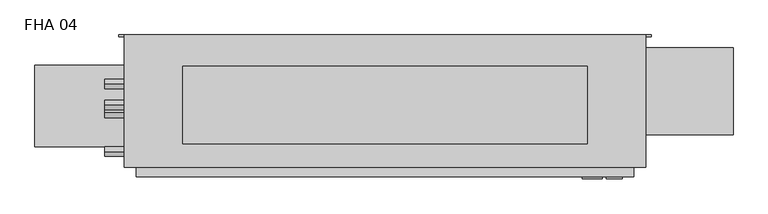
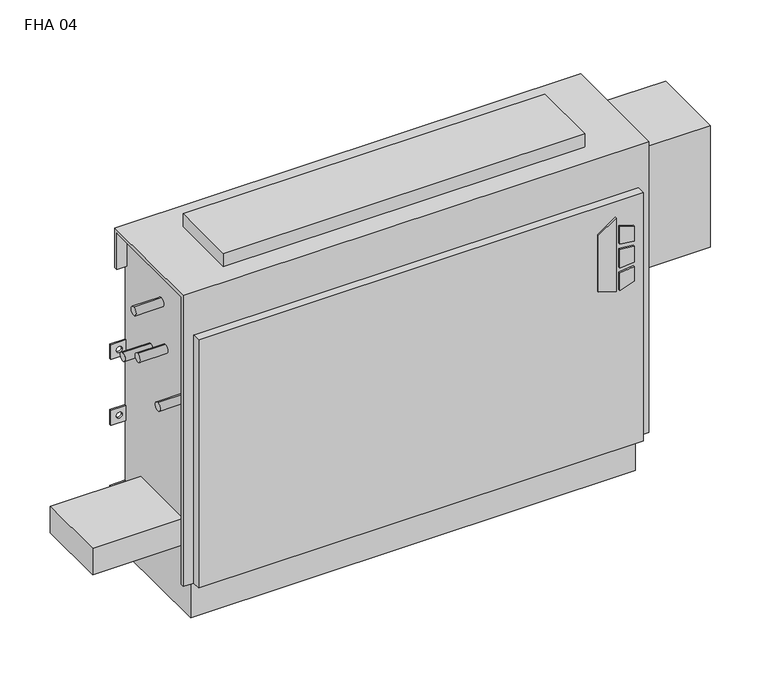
"""IFC4 building model written with IfcOpenShell, lengths in millimetres: proxy geometry, Vertical_Fan_Coil_Unit_-_FHA_-_IEC_-_4-Pipe_TS-FR_LH_2022 : FHA 04."""

from ifc_helpers import new_model, si_unit, point, frame, frame_2d, origin, place, context, project, spatial, polyline, circle_curve, trimmed, segment, composite_curve, outline, extrude, source, transform, mapped, element, save
from ifc_brep_helpers import plane_surface, revolved_surface, advanced_brep


def fha_04_b0cafbec(model_context):
    return source(origin(), model_context, "Body", "SolidModel", [
        extrude(outline(polyline([(391.6086829, 474.7368862), (381.6606126, 506.9102728), (523.831537, 506.9102728), (500.8095309, 474.7368862), (391.6086829, 474.7368862)])), frame((0.0, 9.525, 0.0), z_axis=(0.0, 1.0, 0.0), x_axis=(0.0, 0.0, 1.0)), (0.0, 0.0, 1.0), 3.175),
        extrude(outline(polyline([(470.6079683, 513.6686058), (467.4055757, 539.75), (496.6344168, 539.75), (504.6988318, 513.6686058), (470.6079683, 513.6686058)])), frame((0.0, 9.525, 0.0), z_axis=(0.0, 1.0, 0.0), x_axis=(0.0, 0.0, 1.0)), (0.0, 0.0, 1.0), 3.175),
        extrude(outline(polyline([(418.7444414, 539.75), (415.0789404, 513.6686058), (381.6606126, 513.6686058), (390.2948498, 539.75), (418.7444414, 539.75)])), frame((0.0, 9.525, 0.0), z_axis=(0.0, 1.0, 0.0), x_axis=(0.0, 0.0, 1.0)), (0.0, 0.0, 1.0), 3.175),
        extrude(outline(polyline([(458.0596028, 539.75), (460.3414292, 513.6686058), (424.4038806, 513.6686058), (427.1451456, 539.75), (458.0596028, 539.75)])), frame((0.0, 9.525, 0.0), z_axis=(0.0, 1.0, 0.0), x_axis=(0.0, 0.0, 1.0)), (0.0, 0.0, 1.0), 3.175),
        extrude(outline(composite_curve([segment(trimmed(circle_curve(frame_2d((-317.5, 128.5875)), 9.525), [point((-327.025, 128.5875))], [point((-307.975, 128.5875))], False, "CARTESIAN"), True, "CONTINUOUS"), segment(trimmed(circle_curve(frame_2d((-317.5, 128.5875)), 9.525), [point((-307.975, 128.5875))], [point((-327.025, 128.5875))], False, "CARTESIAN"), True, "CONTINUOUS")], self_intersect=False)), frame((0.0, 0.0, 101.6), z_axis=(0.0, 0.0, 1.0), x_axis=(1.0, 0.0, 0.0)), (0.0, 0.0, 1.0), 25.4),
        extrude(outline(polyline([(-419.1, 61.9125), (-419.1, 195.2625), (-254.0, 195.2625), (-254.0, 61.9125), (-419.1, 61.9125)])), frame((0.0, 0.0, 127.0), z_axis=(0.0, 0.0, 1.0), x_axis=(1.0, 0.0, 0.0)), (0.0, 0.0, 1.0), 50.8),
        extrude(outline(polyline([(482.6, 193.675), (482.6, 66.675), (-177.8, 66.675), (-177.8, 193.675), (482.6, 193.675)])), frame((0.0, 0.0, 635.0), z_axis=(0.0, 0.0, 1.0), x_axis=(1.0, 0.0, 0.0)), (0.0, 0.0, 1.0), 25.4),
        extrude(outline(composite_curve([segment(trimmed(circle_curve(frame_2d((117.475, 472.44)), 7.9375), [point((117.475, 480.3775))], [point((117.475, 464.5025))], False, "CARTESIAN"), True, "CONTINUOUS"), segment(trimmed(circle_curve(frame_2d((117.475, 472.44)), 7.9375), [point((117.475, 464.5025))], [point((117.475, 480.3775))], False, "CARTESIAN"), True, "CONTINUOUS")], self_intersect=False)), frame((-304.8, 0.0, 0.0), z_axis=(1.0, 0.0, 0.0), x_axis=(0.0, 1.0, 0.0)), (0.0, 0.0, 1.0), 50.8),
        extrude(outline(composite_curve([segment(trimmed(circle_curve(frame_2d((164.211, 445.897)), 7.9375), [point((164.211, 453.8345))], [point((164.211, 437.9595))], False, "CARTESIAN"), True, "CONTINUOUS"), segment(trimmed(circle_curve(frame_2d((164.211, 445.897)), 7.9375), [point((164.211, 437.9595))], [point((164.211, 453.8345))], False, "CARTESIAN"), True, "CONTINUOUS")], self_intersect=False)), frame((-304.8, 0.0, 0.0), z_axis=(1.0, 0.0, 0.0), x_axis=(0.0, 1.0, 0.0)), (0.0, 0.0, 1.0), 50.8),
        extrude(outline(composite_curve([segment(trimmed(circle_curve(frame_2d((130.175, 554.99)), 7.9502), [point((130.175, 562.9402))], [point((130.175, 547.0398))], False, "CARTESIAN"), True, "CONTINUOUS"), segment(trimmed(circle_curve(frame_2d((130.175, 554.99)), 7.9502), [point((130.175, 547.0398))], [point((130.175, 562.9402))], False, "CARTESIAN"), True, "CONTINUOUS")], self_intersect=False)), frame((-304.8, 0.0, 0.0), z_axis=(1.0, 0.0, 0.0), x_axis=(0.0, 1.0, 0.0)), (0.0, 0.0, 1.0), 50.8),
        extrude(outline(composite_curve([segment(trimmed(circle_curve(frame_2d((53.975, 416.56)), 7.9502), [point((53.975, 424.5102))], [point((53.975, 408.6098))], False, "CARTESIAN"), True, "CONTINUOUS"), segment(trimmed(circle_curve(frame_2d((53.975, 416.56)), 7.9502), [point((53.975, 408.6098))], [point((53.975, 424.5102))], False, "CARTESIAN"), True, "CONTINUOUS")], self_intersect=False)), frame((-304.8, 0.0, 0.0), z_axis=(1.0, 0.0, 0.0), x_axis=(0.0, 1.0, 0.0)), (0.0, 0.0, 1.0), 50.8),
        extrude(outline(polyline([(720.725, 223.266), (720.725, 81.534), (558.8, 81.534), (558.8, 223.266), (720.725, 223.266)])), frame((0.0, 0.0, 349.25), z_axis=(0.0, 0.0, 1.0), x_axis=(1.0, 0.0, 0.0)), (0.0, 0.0, 1.0), 234.95),
        advanced_brep(
        [(577.85, 244.475, 635.0), (-273.05, 244.475, 635.0), (-273.05, 28.575, 635.0), (577.85, 28.575, 635.0), (-254.0, 244.475, 0.0), (558.8, 244.475, 0.0), (558.8, 38.1, 0.0), (-254.0, 38.1, 0.0), (577.85, 244.475, 558.8), (558.8, 244.475, 558.8), (558.8, 244.475, 414.3375), (587.375, 244.475, 414.3375), (587.375, 244.475, 385.7625), (558.8, 244.475, 385.7625), (558.8, 244.475, 287.3375), (587.375, 244.475, 287.3375), (587.375, 244.475, 258.7625), (558.8, 244.475, 258.7625), (558.8, 244.475, 141.2875), (587.375, 244.475, 141.2875), (587.375, 244.475, 112.7125), (558.8, 244.475, 112.7125), (-254.0, 244.475, 112.7125), (-282.575, 244.475, 112.7125), (-282.575, 244.475, 141.2875), (-254.0, 244.475, 141.2875), (-254.0, 244.475, 258.7625), (-282.575, 244.475, 258.7625), (-282.575, 244.475, 287.3375), (-254.0, 244.475, 287.3375), (-254.0, 244.475, 385.7625), (-282.575, 244.475, 385.7625), (-282.575, 244.475, 414.3375), (-254.0, 244.475, 414.3375), (-254.0, 244.475, 558.8), (-273.05, 244.475, 558.8), (577.0626, 244.475, 127.0), (565.9374, 244.475, 127.0), (-261.1374, 244.475, 127.0), (-272.2626, 244.475, 127.0), (577.0626, 244.475, 273.05), (565.9374, 244.475, 273.05), (-261.1374, 244.475, 273.05), (-272.2626, 244.475, 273.05), (577.0626, 244.475, 400.05), (565.9374, 244.475, 400.05), (-261.1374, 244.475, 400.05), (-272.2626, 244.475, 400.05), (-273.05, 238.125, 558.8), (-273.05, 238.125, 628.65), (-273.05, 34.925, 628.65), (-273.05, 34.925, 73.025), (-273.05, 28.575, 73.025), (558.8, 12.7, 552.45), (-254.0, 12.7, 552.45), (-254.0, 12.7, 73.025), (558.8, 12.7, 73.025), (577.85, 28.575, 73.025), (577.85, 34.925, 73.025), (577.85, 34.925, 628.65), (577.85, 238.125, 628.65), (577.85, 238.125, 558.8), (-254.0, 28.575, 73.025), (-254.0, 28.575, 552.45), (558.8, 28.575, 552.45), (558.8, 28.575, 73.025), (-254.0, 34.925, 73.025), (-254.0, 38.1, 73.025), (558.8, 38.1, 73.025), (558.8, 34.925, 73.025), (558.8, 241.3, 112.7125), (558.8, 241.3, 141.2875), (558.8, 241.3, 258.7625), (558.8, 241.3, 287.3375), (558.8, 241.3, 385.7625), (558.8, 241.3, 414.3375), (558.8, 238.125, 558.8), (558.8, 238.125, 628.65), (558.8, 34.925, 628.65), (-254.0, 34.925, 628.65), (-254.0, 238.125, 628.65), (-254.0, 238.125, 558.8), (-254.0, 241.3, 414.3375), (-254.0, 241.3, 385.7625), (-254.0, 241.3, 287.3375), (-254.0, 241.3, 258.7625), (-254.0, 241.3, 141.2875), (-254.0, 241.3, 112.7125), (587.375, 241.3, 112.7125), (587.375, 241.3, 141.2875), (565.9374, 241.3, 127.0), (577.0626, 241.3, 127.0), (587.375, 241.3, 258.7625), (587.375, 241.3, 287.3375), (565.9374, 241.3, 273.05), (577.0626, 241.3, 273.05), (587.375, 241.3, 385.7625), (587.375, 241.3, 414.3375), (565.9374, 241.3, 400.05), (577.0626, 241.3, 400.05), (-282.575, 241.3, 141.2875), (-282.575, 241.3, 112.7125), (-272.2626, 241.3, 127.0), (-261.1374, 241.3, 127.0), (-282.575, 241.3, 287.3375), (-282.575, 241.3, 258.7625), (-272.2626, 241.3, 273.05), (-261.1374, 241.3, 273.05), (-282.575, 241.3, 414.3375), (-282.575, 241.3, 385.7625), (-272.2626, 241.3, 400.05), (-261.1374, 241.3, 400.05)],
        [
            (0, 1),
            (1, 2),
            (2, 3),
            (3, 0),
            (4, 5),
            (5, 6),
            (6, 7),
            (7, 4),
            (0, 8),
            (8, 9),
            (9, 10),
            (10, 11),
            (11, 12),
            (12, 13),
            (13, 14),
            (14, 15),
            (15, 16),
            (16, 17),
            (17, 18),
            (18, 19),
            (19, 20),
            (20, 21),
            (21, 5),
            (4, 22),
            (22, 23),
            (23, 24),
            (24, 25),
            (25, 26),
            (26, 27),
            (27, 28),
            (28, 29),
            (29, 30),
            (30, 31),
            (31, 32),
            (32, 33),
            (33, 34),
            (34, 35),
            (35, 1),
            (36, 37, circle_curve(frame((571.5, 244.475, 127.0), z_axis=(0.0, -1.0, 0.0), x_axis=(-1.0, 0.0, 0.0)), 5.5626)),
            (37, 36, circle_curve(frame((571.5, 244.475, 127.0), z_axis=(0.0, -1.0, 0.0), x_axis=(-1.0, 0.0, 0.0)), 5.5626)),
            (38, 39, circle_curve(frame((-266.7, 244.475, 127.0), z_axis=(0.0, -1.0, 0.0), x_axis=(-1.0, 0.0, 0.0)), 5.5626)),
            (39, 38, circle_curve(frame((-266.7, 244.475, 127.0), z_axis=(0.0, -1.0, 0.0), x_axis=(-1.0, 0.0, 0.0)), 5.5626)),
            (40, 41, circle_curve(frame((571.5, 244.475, 273.05), z_axis=(0.0, -1.0, 0.0), x_axis=(-1.0, 0.0, 0.0)), 5.5626)),
            (41, 40, circle_curve(frame((571.5, 244.475, 273.05), z_axis=(0.0, -1.0, 0.0), x_axis=(-1.0, 0.0, 0.0)), 5.5626)),
            (42, 43, circle_curve(frame((-266.7, 244.475, 273.05), z_axis=(0.0, -1.0, 0.0), x_axis=(-1.0, 0.0, 0.0)), 5.5626)),
            (43, 42, circle_curve(frame((-266.7, 244.475, 273.05), z_axis=(0.0, -1.0, 0.0), x_axis=(-1.0, 0.0, 0.0)), 5.5626)),
            (44, 45, circle_curve(frame((571.5, 244.475, 400.05), z_axis=(0.0, -1.0, 0.0), x_axis=(-1.0, 0.0, 0.0)), 5.5626)),
            (45, 44, circle_curve(frame((571.5, 244.475, 400.05), z_axis=(0.0, -1.0, 0.0), x_axis=(-1.0, 0.0, 0.0)), 5.5626)),
            (46, 47, circle_curve(frame((-266.7, 244.475, 400.05), z_axis=(0.0, -1.0, 0.0), x_axis=(-1.0, 0.0, 0.0)), 5.5626)),
            (47, 46, circle_curve(frame((-266.7, 244.475, 400.05), z_axis=(0.0, -1.0, 0.0), x_axis=(-1.0, 0.0, 0.0)), 5.5626)),
            (35, 48),
            (48, 49),
            (49, 50),
            (50, 51),
            (51, 52),
            (52, 2),
            (53, 54),
            (54, 55),
            (55, 56),
            (56, 53),
            (3, 57),
            (57, 58),
            (58, 59),
            (59, 60),
            (60, 61),
            (61, 8),
            (52, 62),
            (62, 63),
            (63, 64),
            (64, 65),
            (65, 57),
            (53, 64),
            (63, 54),
            (55, 62),
            (51, 66),
            (66, 67),
            (67, 68),
            (68, 69),
            (69, 58),
            (65, 56),
            (6, 68),
            (67, 7),
            (21, 70),
            (70, 71),
            (71, 18),
            (17, 72),
            (72, 73),
            (73, 14),
            (13, 74),
            (74, 75),
            (75, 10),
            (9, 76),
            (76, 77),
            (77, 78),
            (78, 69),
            (66, 79),
            (79, 80),
            (80, 81),
            (81, 34),
            (33, 82),
            (82, 83),
            (83, 30),
            (29, 84),
            (84, 85),
            (85, 26),
            (25, 86),
            (86, 87),
            (87, 22),
            (76, 61),
            (60, 77),
            (78, 59),
            (50, 79),
            (81, 48),
            (80, 49),
            (70, 88),
            (88, 89),
            (89, 71),
            (90, 91, circle_curve(frame((571.5, 241.3, 127.0), z_axis=(0.0, 1.0, 0.0), x_axis=(-1.0, 0.0, 0.0)), 5.5626)),
            (91, 90, circle_curve(frame((571.5, 241.3, 127.0), z_axis=(0.0, 1.0, 0.0), x_axis=(-1.0, 0.0, 0.0)), 5.5626)),
            (92, 93),
            (93, 73),
            (72, 92),
            (94, 95, circle_curve(frame((571.5, 241.3, 273.05), z_axis=(0.0, 1.0, 0.0), x_axis=(-1.0, 0.0, 0.0)), 5.5626)),
            (95, 94, circle_curve(frame((571.5, 241.3, 273.05), z_axis=(0.0, 1.0, 0.0), x_axis=(-1.0, 0.0, 0.0)), 5.5626)),
            (96, 97),
            (97, 75),
            (74, 96),
            (98, 99, circle_curve(frame((571.5, 241.3, 400.05), z_axis=(0.0, 1.0, 0.0), x_axis=(-1.0, 0.0, 0.0)), 5.5626)),
            (99, 98, circle_curve(frame((571.5, 241.3, 400.05), z_axis=(0.0, 1.0, 0.0), x_axis=(-1.0, 0.0, 0.0)), 5.5626)),
            (100, 101),
            (101, 87),
            (86, 100),
            (102, 103, circle_curve(frame((-266.7, 241.3, 127.0), z_axis=(0.0, 1.0, 0.0), x_axis=(-1.0, 0.0, 0.0)), 5.5626)),
            (103, 102, circle_curve(frame((-266.7, 241.3, 127.0), z_axis=(0.0, 1.0, 0.0), x_axis=(-1.0, 0.0, 0.0)), 5.5626)),
            (84, 104),
            (104, 105),
            (105, 85),
            (106, 107, circle_curve(frame((-266.7, 241.3, 273.05), z_axis=(0.0, 1.0, 0.0), x_axis=(-1.0, 0.0, 0.0)), 5.5626)),
            (107, 106, circle_curve(frame((-266.7, 241.3, 273.05), z_axis=(0.0, 1.0, 0.0), x_axis=(-1.0, 0.0, 0.0)), 5.5626)),
            (108, 109),
            (109, 83),
            (82, 108),
            (110, 111, circle_curve(frame((-266.7, 241.3, 400.05), z_axis=(0.0, 1.0, 0.0), x_axis=(-1.0, 0.0, 0.0)), 5.5626)),
            (111, 110, circle_curve(frame((-266.7, 241.3, 400.05), z_axis=(0.0, 1.0, 0.0), x_axis=(-1.0, 0.0, 0.0)), 5.5626)),
            (89, 19),
            (88, 20),
            (16, 92),
            (93, 15),
            (12, 96),
            (97, 11),
            (24, 100),
            (101, 23),
            (105, 27),
            (104, 28),
            (32, 108),
            (109, 31),
            (90, 37),
            (36, 91),
            (102, 39),
            (38, 103),
            (94, 41),
            (40, 95),
            (106, 43),
            (42, 107),
            (98, 45),
            (44, 99),
            (110, 47),
            (46, 111),
        ],
        [
            plane_surface(frame((-273.05, 244.475, 635.0), z_axis=(0.0, 0.0, 1.0), x_axis=(-1.0, 0.0, 0.0))),
            plane_surface(frame((-273.05, 244.475, 0.0), z_axis=(0.0, 0.0, -1.0), x_axis=(1.0, 0.0, 0.0))),
            plane_surface(frame((577.85, 244.475, 635.0), z_axis=(0.0, 1.0, 0.0), x_axis=(0.0, 0.0, -1.0))),
            plane_surface(frame((-273.05, 244.475, 635.0), z_axis=(-1.0, 0.0, 0.0), x_axis=(0.0, 0.0, -1.0))),
            plane_surface(frame((-273.05, 12.7, 635.0), z_axis=(0.0, -1.0, 0.0), x_axis=(0.0, 0.0, -1.0))),
            plane_surface(frame((577.85, 12.7, 635.0), z_axis=(1.0, 0.0, 0.0), x_axis=(0.0, 0.0, -1.0))),
            plane_surface(frame((-400.05, 28.575, 635.0), z_axis=(0.0, -1.0, 0.0), x_axis=(1.0, 0.0, 0.0))),
            plane_surface(frame((-400.05, 28.575, 552.45), z_axis=(0.0, 0.0, 1.0), x_axis=(1.0, 0.0, 0.0))),
            plane_surface(frame((-273.05, 12.7, 73.025), z_axis=(0.0, 0.0, -1.0), x_axis=(1.0, 0.0, 0.0))),
            plane_surface(frame((-273.05, 38.1, 73.025), z_axis=(0.0, -1.0, 0.0), x_axis=(1.0, 0.0, 0.0))),
            plane_surface(frame((558.8, 28.575, 73.025), z_axis=(1.0, 0.0, 0.0), x_axis=(0.0, -1.0, 0.0))),
            plane_surface(frame((-254.0, 28.575, 552.45), z_axis=(-1.0, 0.0, 0.0), x_axis=(0.0, -1.0, 0.0))),
            plane_surface(frame((558.8, 244.475, 0.0), z_axis=(1.0, 0.0, 0.0), x_axis=(0.0, -1.0, 0.0))),
            plane_surface(frame((-254.0, 244.475, 73.025), z_axis=(-1.0, 0.0, 0.0), x_axis=(0.0, -1.0, 0.0))),
            plane_surface(frame((558.8, 238.125, 628.65), z_axis=(0.0, -1.0, 0.0), x_axis=(1.0, 0.0, 0.0))),
            plane_surface(frame((558.8, 238.125, 558.8), z_axis=(0.0, 0.0, -1.0), x_axis=(1.0, 0.0, 0.0))),
            plane_surface(frame((558.8, 34.925, 73.025), z_axis=(0.0, 1.0, 0.0), x_axis=(1.0, 0.0, 0.0))),
            plane_surface(frame((558.8, 34.925, 628.65), z_axis=(0.0, 0.0, -1.0), x_axis=(1.0, 0.0, 0.0))),
            plane_surface(frame((-254.0, 34.925, 628.65), z_axis=(0.0, 1.0, 0.0), x_axis=(-1.0, 0.0, 0.0))),
            plane_surface(frame((-254.0, 244.475, 558.8), z_axis=(0.0, 0.0, -1.0), x_axis=(-1.0, 0.0, 0.0))),
            plane_surface(frame((-254.0, 238.125, 558.8), z_axis=(0.0, -1.0, 0.0), x_axis=(-1.0, 0.0, 0.0))),
            plane_surface(frame((-254.0, 238.125, 628.65), z_axis=(0.0, 0.0, -1.0), x_axis=(-1.0, 0.0, 0.0))),
            plane_surface(frame((587.375, 241.3, 141.2875), z_axis=(0.0, -1.0, 0.0), x_axis=(-1.0, 0.0, 0.0))),
            plane_surface(frame((558.8, 244.475, 141.2875), z_axis=(0.0, 0.0, 1.0), x_axis=(0.0, -1.0, 0.0))),
            plane_surface(frame((587.375, 244.475, 141.2875), z_axis=(1.0, 0.0, 0.0), x_axis=(0.0, -1.0, 0.0))),
            plane_surface(frame((587.375, 244.475, 112.7125), z_axis=(0.0, 0.0, -1.0), x_axis=(0.0, -1.0, 0.0))),
            plane_surface(frame((587.375, 244.475, 258.7625), z_axis=(0.0, 0.0, -1.0), x_axis=(0.0, -1.0, 0.0))),
            plane_surface(frame((558.8, 244.475, 287.3375), z_axis=(0.0, 0.0, 1.0), x_axis=(0.0, -1.0, 0.0))),
            plane_surface(frame((587.375, 244.475, 287.3375), z_axis=(1.0, 0.0, 0.0), x_axis=(0.0, -1.0, 0.0))),
            plane_surface(frame((587.375, 244.475, 385.7625), z_axis=(0.0, 0.0, -1.0), x_axis=(0.0, -1.0, 0.0))),
            plane_surface(frame((558.8, 244.475, 414.3375), z_axis=(0.0, 0.0, 1.0), x_axis=(0.0, -1.0, 0.0))),
            plane_surface(frame((587.375, 244.475, 414.3375), z_axis=(1.0, 0.0, 0.0), x_axis=(0.0, -1.0, 0.0))),
            plane_surface(frame((-282.575, 244.475, 141.2875), z_axis=(0.0, 0.0, 1.0), x_axis=(0.0, -1.0, 0.0))),
            plane_surface(frame((-254.0, 244.475, 112.7125), z_axis=(0.0, 0.0, -1.0), x_axis=(0.0, -1.0, 0.0))),
            plane_surface(frame((-282.575, 244.475, 112.7125), z_axis=(-1.0, 0.0, 0.0), x_axis=(0.0, -1.0, 0.0))),
            plane_surface(frame((-254.0, 244.475, 258.7625), z_axis=(0.0, 0.0, -1.0), x_axis=(0.0, -1.0, 0.0))),
            plane_surface(frame((-282.575, 244.475, 258.7625), z_axis=(-1.0, 0.0, 0.0), x_axis=(0.0, -1.0, 0.0))),
            plane_surface(frame((-282.575, 244.475, 287.3375), z_axis=(0.0, 0.0, 1.0), x_axis=(0.0, -1.0, 0.0))),
            plane_surface(frame((-282.575, 244.475, 414.3375), z_axis=(0.0, 0.0, 1.0), x_axis=(0.0, -1.0, 0.0))),
            plane_surface(frame((-254.0, 244.475, 385.7625), z_axis=(0.0, 0.0, -1.0), x_axis=(0.0, -1.0, 0.0))),
            plane_surface(frame((-282.575, 244.475, 385.7625), z_axis=(-1.0, 0.0, 0.0), x_axis=(0.0, -1.0, 0.0))),
            revolved_surface(polyline([(565.9374, 241.3, 127.0), (565.9374, 244.475, 127.0)]), (571.5, 244.475, 127.0), (0.0, -1.0, 0.0)),
            revolved_surface(polyline([(-272.26259999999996, 241.3, 127.0), (-272.26259999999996, 244.475, 127.0)]), (-266.7, 244.475, 127.0), (0.0, -1.0, 0.0)),
            revolved_surface(polyline([(565.9374, 241.3, 273.05), (565.9374, 244.475, 273.05)]), (571.5, 244.475, 273.05), (0.0, -1.0, 0.0)),
            revolved_surface(polyline([(-272.26259999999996, 241.3, 273.05), (-272.26259999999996, 244.475, 273.05)]), (-266.7, 244.475, 273.05), (0.0, -1.0, 0.0)),
            revolved_surface(polyline([(565.9374, 241.3, 400.05), (565.9374, 244.475, 400.05)]), (571.5, 244.475, 400.05), (0.0, -1.0, 0.0)),
            revolved_surface(polyline([(-272.26259999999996, 241.3, 400.05), (-272.26259999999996, 244.475, 400.05)]), (-266.7, 244.475, 400.05), (0.0, -1.0, 0.0)),
        ],
        [
            (0, [[1, 2, 3, 4]]),
            (1, [[5, 6, 7, 8]]),
            (2, [[-1, 9, 10, 11, 12, 13, 14, 15, 16, 17, 18, 19, 20, 21, 22, 23, -5, 24, 25, 26, 27, 28, 29, 30, 31, 32, 33, 34, 35, 36, 37, 38], [39, 40], [41, 42], [43, 44], [45, 46], [47, 48], [49, 50]]),
            (3, [[-2, -38, 51, 52, 53, 54, 55, 56]]),
            (4, [[57, 58, 59, 60]]),
            (5, [[-4, 61, 62, 63, 64, 65, 66, -9]]),
            (6, [[-3, -56, 67, 68, 69, 70, 71, -61]]),
            (7, [[-57, 72, -69, 73]]),
            (8, [[-59, 74, -67, -55, 75, 76, 77, 78, 79, -62, -71, 80]]),
            (9, [[-7, 81, -77, 82]]),
            (10, [[-70, -72, -60, -80]]),
            (11, [[-68, -74, -58, -73]]),
            (12, [[-6, -23, 83, 84, 85, -19, 86, 87, 88, -15, 89, 90, 91, -11, 92, 93, 94, 95, -78, -81]]),
            (13, [[-8, -82, -76, 96, 97, 98, 99, -36, 100, 101, 102, -32, 103, 104, 105, -28, 106, 107, 108, -24]]),
            (14, [[-93, 109, -65, 110]]),
            (15, [[-92, -10, -66, -109]]),
            (16, [[-95, 111, -63, -79]]),
            (17, [[-94, -110, -64, -111]]),
            (18, [[-96, -75, -54, 112]]),
            (19, [[-99, 113, -51, -37]]),
            (20, [[-98, 114, -52, -113]]),
            (21, [[-97, -112, -53, -114]]),
            (22, [[115, 116, 117, -84], [118, 119]]),
            (22, [[120, 121, -87, 122], [123, 124]]),
            (22, [[125, 126, -90, 127], [128, 129]]),
            (22, [[130, 131, -107, 132], [133, 134]]),
            (22, [[135, 136, 137, -104], [138, 139]]),
            (22, [[140, 141, -101, 142], [143, 144]]),
            (23, [[-117, 145, -20, -85]]),
            (24, [[-116, 146, -21, -145]]),
            (25, [[-115, -83, -22, -146]]),
            (26, [[-122, -86, -18, 147]]),
            (27, [[-121, 148, -16, -88]]),
            (28, [[-120, -147, -17, -148]]),
            (29, [[-127, -89, -14, 149]]),
            (30, [[-126, 150, -12, -91]]),
            (31, [[-125, -149, -13, -150]]),
            (32, [[-132, -106, -27, 151]]),
            (33, [[-131, 152, -25, -108]]),
            (34, [[-130, -151, -26, -152]]),
            (35, [[-137, 153, -29, -105]]),
            (36, [[-136, 154, -30, -153]]),
            (37, [[-135, -103, -31, -154]]),
            (38, [[-142, -100, -35, 155]]),
            (39, [[-141, 156, -33, -102]]),
            (40, [[-140, -155, -34, -156]]),
            (41, [[157, -39, 158, -118]]),
            (41, [[-157, -119, -158, -40]]),
            (42, [[159, -41, 160, -133]]),
            (42, [[-159, -134, -160, -42]]),
            (43, [[161, -43, 162, -123]]),
            (43, [[-161, -124, -162, -44]]),
            (44, [[163, -45, 164, -138]]),
            (44, [[-163, -139, -164, -46]]),
            (45, [[165, -47, 166, -128]]),
            (45, [[-165, -129, -166, -48]]),
            (46, [[167, -49, 168, -143]]),
            (46, [[-167, -144, -168, -50]]),
        ],
    ),
    ])


if __name__ == "__main__":
    model = new_model("IFC4")
    model_context = context("Model", 3, world=origin())
    ifc_project = project(units=[si_unit("LENGTHUNIT", "METRE", prefix="MILLI")], contexts=[model_context])
    site = spatial("IfcSite", under=ifc_project)
    building = spatial("IfcBuilding", under=site)
    placement = place(None, origin())
    fha_04_shape = fha_04_b0cafbec(model_context)
    element("IfcBuildingElementProxy", 1, Name="Vertical_Fan_Coil_Unit_-_FHA_-_IEC_-_4-Pipe_TS-FR_LH_2022 : FHA 04", ObjectType="Vertical_Fan_Coil_Unit_-_FHA_-_IEC_-_4-Pipe_TS-FR_LH_2022 : FHA 04", at=placement, inside=building, context=model_context, shape_type="MappedRepresentation", body=[
        mapped(fha_04_shape, transform((0.0, 0.0, 0.0), x_axis=(1.0, 0.0, 0.0), y_axis=(0.0, 1.0, 0.0), z_axis=(0.0, 0.0, 1.0))),
    ])
    save(model, "model.ifc")
